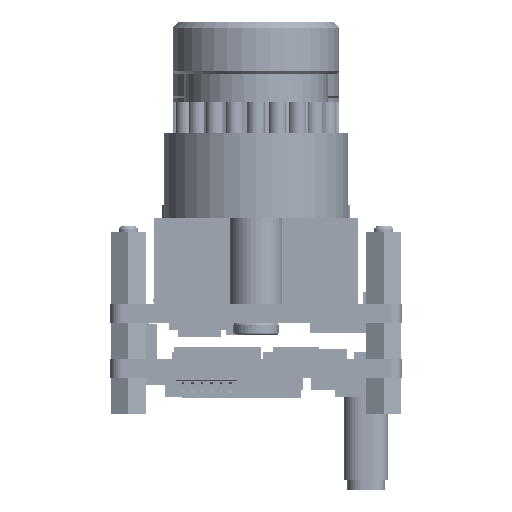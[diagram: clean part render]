
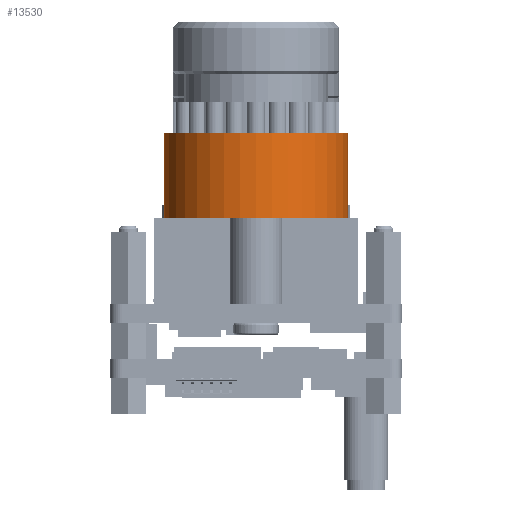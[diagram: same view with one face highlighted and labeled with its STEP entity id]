
A CAD part, left-side view. The second image highlights one B-rep face of the part: STEP entity #13530.
In plain terms, the highlighted cylindrical face has radius 7.75 mm (diameter 15.5 mm), a partial arc.
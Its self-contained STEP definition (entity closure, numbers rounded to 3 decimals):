
#12884=CARTESIAN_POINT('',(0.,0.,-7.2));
#12885=DIRECTION('',(0.,0.,-1.));
#12886=DIRECTION('',(0.,-1.,0.));
#12887=AXIS2_PLACEMENT_3D('',#12884,#12885,#12886);
#12928=DIRECTION('',(0.,0.,1.));
#12929=VECTOR('',#12928,7.1);
#12930=CARTESIAN_POINT('',(0.,7.75,-14.3));
#12931=LINE('',#12930,#12929);
#12935=DIRECTION('',(0.,0.,1.));
#12936=VECTOR('',#12935,7.1);
#12937=CARTESIAN_POINT('',(0.,-7.75,-14.3));
#12938=LINE('',#12937,#12936);
#12942=CARTESIAN_POINT('',(0.,0.,-14.3));
#12943=DIRECTION('',(0.,0.,1.));
#12944=DIRECTION('',(0.,1.,0.));
#12945=AXIS2_PLACEMENT_3D('',#12942,#12943,#12944);
#13168=CARTESIAN_POINT('',(0.,-7.75,-7.2));
#13169=CARTESIAN_POINT('',(0.,7.75,-7.2));
#13170=VERTEX_POINT('',#13168);
#13171=VERTEX_POINT('',#13169);
#13172=CARTESIAN_POINT('',(0.,-7.75,-14.3));
#13173=VERTEX_POINT('',#13172);
#13174=CARTESIAN_POINT('',(0.,7.75,-14.3));
#13175=VERTEX_POINT('',#13174);
#13516=CARTESIAN_POINT('',(0.,0.,-7.2));
#13517=DIRECTION('',(0.,0.,-1.));
#13518=DIRECTION('',(0.,-1.,0.));
#13519=AXIS2_PLACEMENT_3D('',#13516,#13517,#13518);
#13520=CYLINDRICAL_SURFACE('',#13519,7.75);
#13521=ORIENTED_EDGE('',*,*,#13457,.F.);
#13523=ORIENTED_EDGE('',*,*,#13522,.F.);
#13525=ORIENTED_EDGE('',*,*,#13524,.F.);
#13527=ORIENTED_EDGE('',*,*,#13526,.T.);
#13528=EDGE_LOOP('',(#13521,#13523,#13525,#13527));
#13529=FACE_OUTER_BOUND('',#13528,.F.);
#12888=CIRCLE('',#12887,7.75);
#12946=CIRCLE('',#12945,7.75);
#13457=EDGE_CURVE('',#13170,#13171,#12888,.T.);
#13522=EDGE_CURVE('',#13173,#13170,#12938,.T.);
#13524=EDGE_CURVE('',#13175,#13173,#12946,.T.);
#13526=EDGE_CURVE('',#13175,#13171,#12931,.T.);
#13530=ADVANCED_FACE('',(#13529),#13520,.T.);
